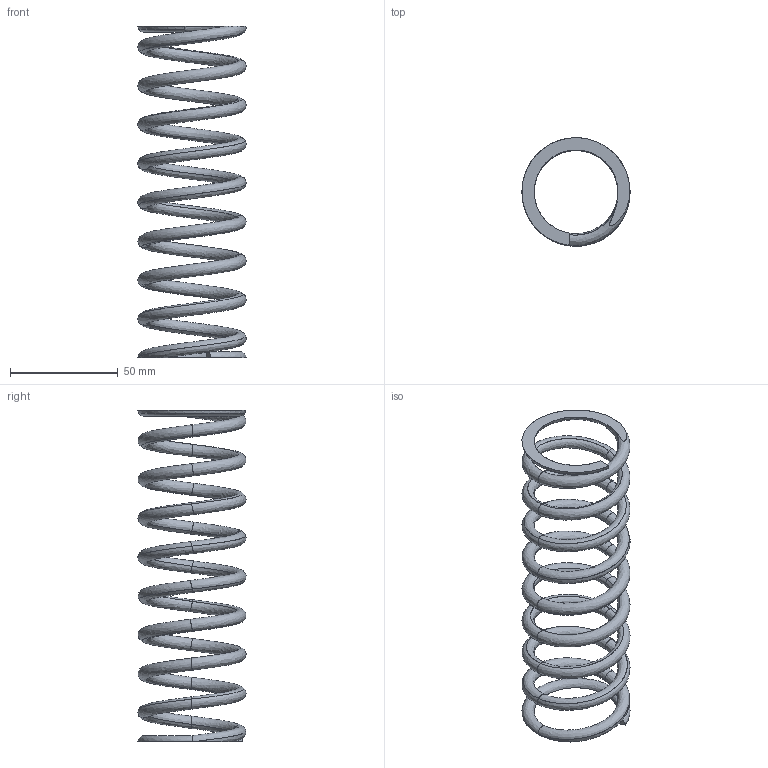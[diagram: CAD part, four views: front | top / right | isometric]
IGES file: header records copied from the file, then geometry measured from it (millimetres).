
Start section: START RECORD GO HERE.
Global section: file name: Spring.igs; native system: DASSAULT SYSTEMES CATIA V5 R20 - www.3ds.com; preprocessor: CATIA Version 5 Release 20 ; author: Ehsan.Fathi; organization: EHSAN; date: 20141001.132836; units: millimetre
Bounding box: 50.1 x 50.09 x 153.6 mm (x, y, z)
Surface area: 24203.6 mm2 (no closed solid volume)
Topology: 0 solids, 0 shells, 43 faces, 188 edges, 189 vertices
Faces by surface type: bspline 36, plane 4, revolution 3
